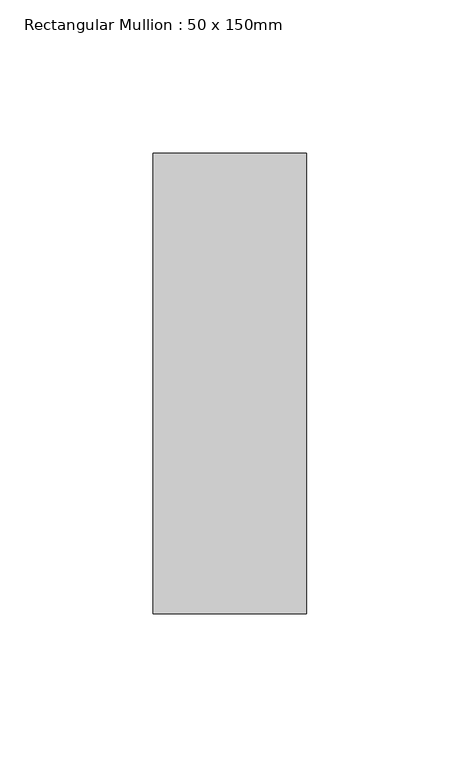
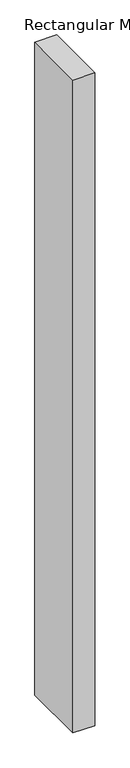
"""IFC4 building model written with IfcOpenShell, lengths in millimetres: member geometry, Rectangular Mullion : 50 x 150mm."""

from ifc_helpers import new_model, si_unit, frame, origin, place, context, project, spatial, polyline, outline, extrude, source, transform, mapped, element, save


def rectangular_mullion_50_x_150mm_dae9342e(model_context):
    return source(origin(), model_context, "Body", "SweptSolid", [
        extrude(outline(polyline([(0.0, 0.0), (-0.399672, -50.0), (-1574.7085461, -50.0), (-1574.9417148, 0.0), (0.0, 0.0)])), frame((0.0, -75.0, 0.0), z_axis=(0.0, 1.0, 0.0), x_axis=(0.0, 0.0, 1.0)), (0.0, 0.0, 1.0), 150.0),
    ])


if __name__ == "__main__":
    model = new_model("IFC4")
    model_context = context("Model", 3, world=origin())
    ifc_project = project(units=[si_unit("LENGTHUNIT", "METRE", prefix="MILLI")], contexts=[model_context])
    site = spatial("IfcSite", under=ifc_project)
    building = spatial("IfcBuilding", under=site)
    placement = place(None, origin())
    rectangular_mullion_50_x_150mm_shape = rectangular_mullion_50_x_150mm_dae9342e(model_context)
    element("IfcMember", 1, ObjectType="Rectangular Mullion : 50 x 150mm", at=placement, inside=building, context=model_context, shape_type="MappedRepresentation", body=[
        mapped(rectangular_mullion_50_x_150mm_shape, transform((0.0, 0.0, 0.0), x_axis=(1.0, 0.0, 0.0), y_axis=(0.0, 1.0, 0.0), z_axis=(0.0, 0.0, 1.0))),
    ])
    save(model, "model.ifc")
